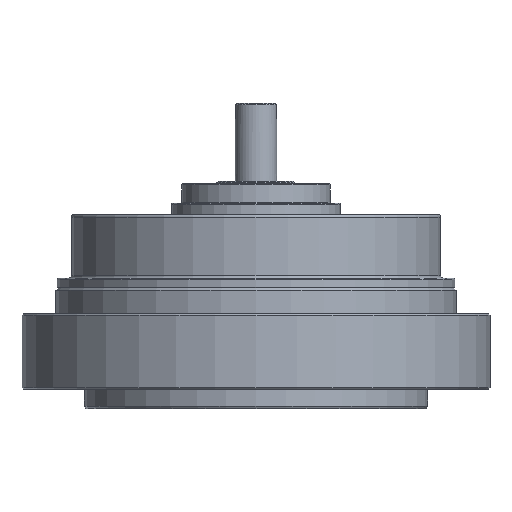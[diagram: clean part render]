
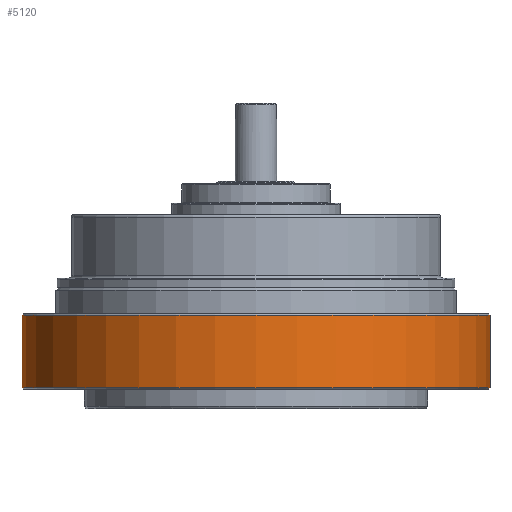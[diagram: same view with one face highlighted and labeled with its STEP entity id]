
A CAD part, front view. The second image highlights one B-rep face of the part: STEP entity #5120.
In plain terms, the highlighted cylindrical face has radius 90 mm (diameter 180 mm), a full revolution.
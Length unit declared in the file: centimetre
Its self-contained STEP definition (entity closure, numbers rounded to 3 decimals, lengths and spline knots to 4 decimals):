
#908=CYLINDRICAL_SURFACE('',#5714,9.);
#1149=FACE_OUTER_BOUND('',#2096,.T.);
#1527=FACE_BOUND('',#2097,.T.);
#2096=EDGE_LOOP('',(#4348));
#2097=EDGE_LOOP('',(#4349));
#2446=CIRCLE('',#5711,9.);
#2448=CIRCLE('',#5715,9.);
#2818=VERTEX_POINT('',#8415);
#2820=VERTEX_POINT('',#8421);
#3353=EDGE_CURVE('',#2818,#2818,#2446,.T.);
#3355=EDGE_CURVE('',#2820,#2820,#2448,.T.);
#4348=ORIENTED_EDGE('',*,*,#3353,.F.);
#4349=ORIENTED_EDGE('',*,*,#3355,.F.);
#5120=ADVANCED_FACE('',(#1149,#1527),#908,.T.);
#5711=AXIS2_PLACEMENT_3D('',#8416,#6955,#6956);
#5714=AXIS2_PLACEMENT_3D('',#8420,#6961,#6962);
#5715=AXIS2_PLACEMENT_3D('',#8422,#6963,#6964);
#6955=DIRECTION('center_axis',(0.,0.,-1.));
#6956=DIRECTION('ref_axis',(-1.,0.,0.));
#6961=DIRECTION('center_axis',(0.,0.,-1.));
#6962=DIRECTION('ref_axis',(1.,0.,0.));
#6963=DIRECTION('center_axis',(0.,0.,1.));
#6964=DIRECTION('ref_axis',(-1.,0.,0.));
#8415=CARTESIAN_POINT('',(9.,0.,0.8));
#8416=CARTESIAN_POINT('Origin',(0.,0.,0.8));
#8420=CARTESIAN_POINT('Origin',(0.,0.,2.125));
#8421=CARTESIAN_POINT('',(9.,0.,3.6));
#8422=CARTESIAN_POINT('Origin',(0.,0.,3.6));
